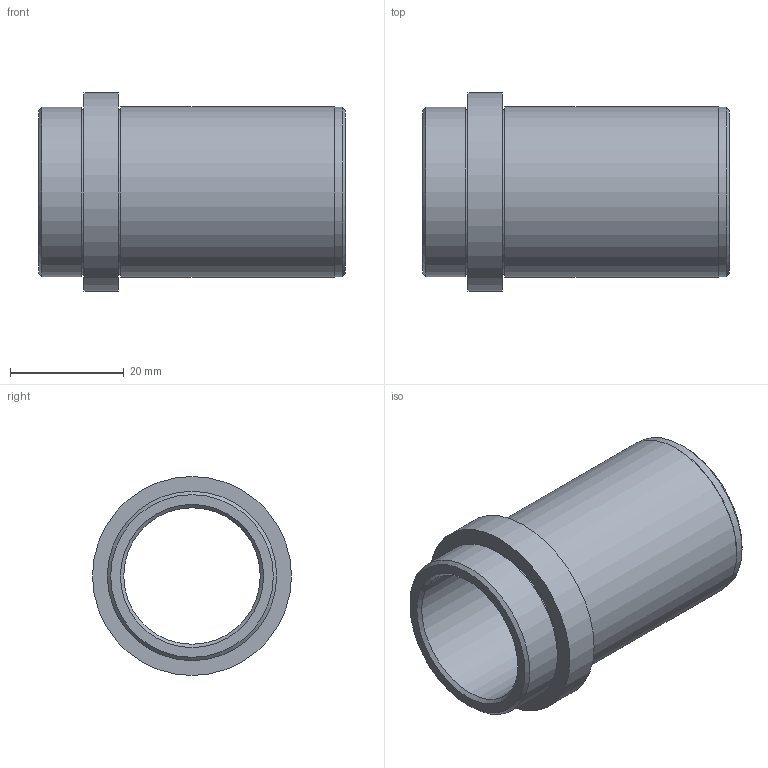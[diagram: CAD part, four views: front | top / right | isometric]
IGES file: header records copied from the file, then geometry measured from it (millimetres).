
Global section: file name: BG06.024046.ipt; native system: Autodesk Inventor 2021; preprocessor: unknown; author: SM; date: 20211221.174113; units: millimetre
Bounding box: 54 x 35 x 35 mm (x, y, z)
Volume: 15076.4 mm3; surface area: 10313.2 mm2
Topology: 1 solids, 1 shells, 18 faces, 31 edges, 20 vertices
Faces by surface type: plane 7, cylinder 6, revolution 3, cone 2
Full cylindrical faces by diameter (mm): 29 x2, 29.8 x2, 30 x1, 35 x1
